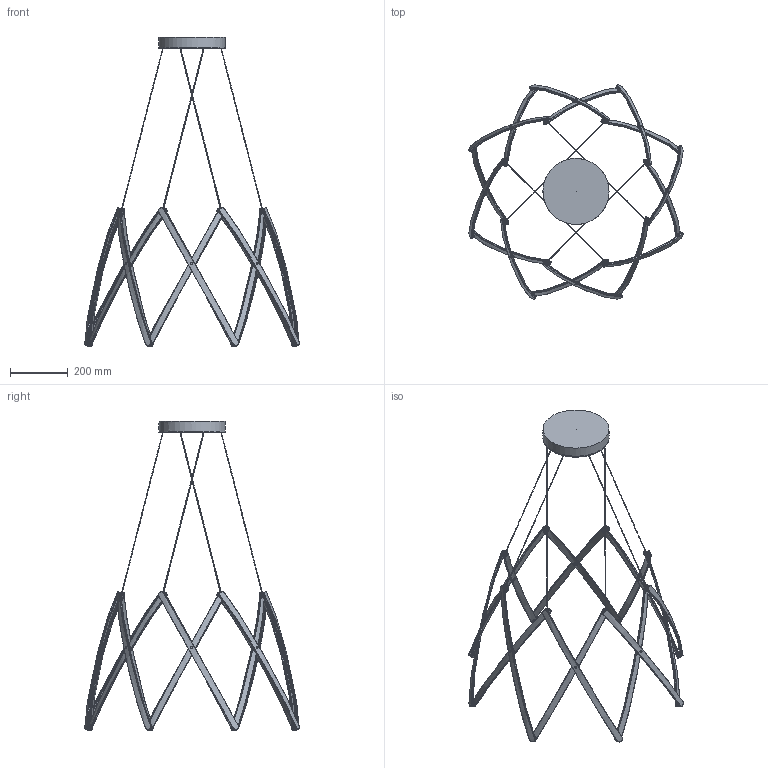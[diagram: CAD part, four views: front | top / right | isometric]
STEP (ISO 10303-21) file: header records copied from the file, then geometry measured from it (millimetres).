
FILE_DESCRIPTION(/* description */ (''),/* implementation_level */ '2;1');
FILE_NAME(/* name */ 'STELLA16 FLAT POS 2',/* time_stamp */ '2024-05-06T13:24:07-07:00',/* author */ (''),/* organization */ (''),/* preprocessor_version */ 'ST-DEVELOPER v18',/* originating_system */ '',/* authorisation */ '');
FILE_SCHEMA (('AUTOMOTIVE_DESIGN { 1 0 10303 214 3 1 1 }'));
Bounding box: 741.94 x 741.94 x 1070.59 mm (x, y, z)
Surface area: 672918.6 mm2 (no closed solid volume)
Topology: 0 solids, 2007 shells, 2007 faces, 9649 edges, 9507 vertices
Faces by surface type: bspline 2007
Entity records: 155914 total; most frequent: CARTESIAN_POINT 108175, ORIENTED_EDGE 9709, EDGE_CURVE 9607, VERTEX_POINT 9507, B_SPLINE_CURVE_WITH_KNOTS 4631, EDGE_LOOP 2175, STYLED_ITEM 2007, FACE_OUTER_BOUND 2007
